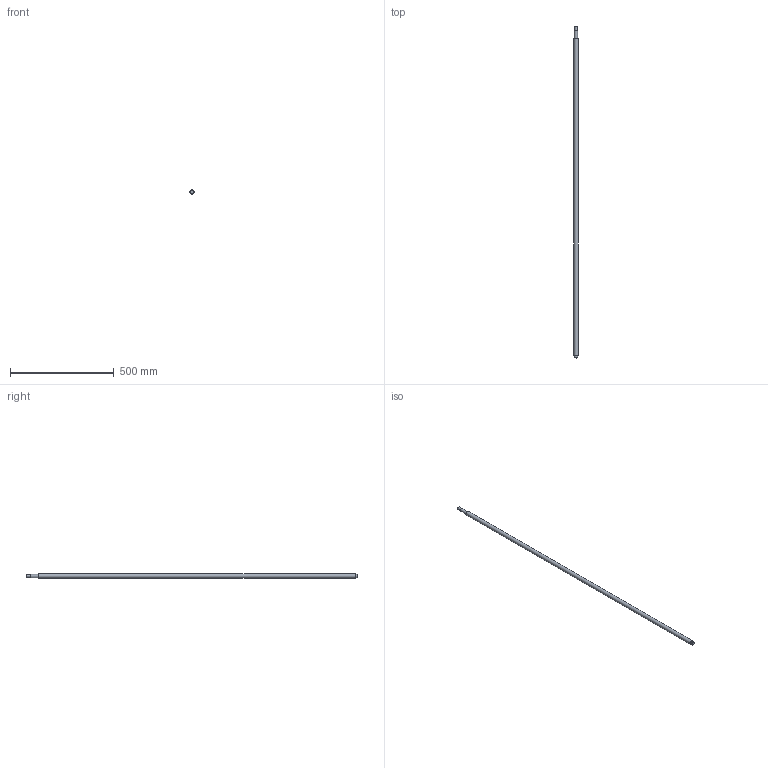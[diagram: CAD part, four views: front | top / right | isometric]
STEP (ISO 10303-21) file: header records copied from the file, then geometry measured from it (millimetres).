
FILE_DESCRIPTION(/* description */ (''),/* implementation_level */ '2;1');
FILE_NAME(/* name */ 'C:\Users\David\Desktop\stepFiles\Profilfuehrung\KUS2010x1600.stp',/* time_stamp */ '2018-06-24T15:12:51+02:00',/* author */ ('David'),/* organization */ (''),/* preprocessor_version */ 'ST-DEVELOPER v17',/* originating_system */ 'Autodesk Inventor 2019',/* authorisation */ '');
FILE_SCHEMA (('AUTOMOTIVE_DESIGN { 1 0 10303 214 3 1 1 }'));
Length unit declared in the file: millimetre
Products named in the file (1): SFU2005xvaiabel
Bounding box: 20 x 1600 x 20 mm (x, y, z)
Volume: 491320.2 mm3; surface area: 99828.3 mm2
Topology: 1 solids, 1 shells, 15 faces, 34 edges, 26 vertices
Faces by surface type: plane 7, cylinder 6, cone 2
Full cylindrical faces by diameter (mm): 12 x1, 14.3 x1, 15 x3, 20 x1
Entity records: 493 total; most frequent: DIRECTION 92, CARTESIAN_POINT 76, ORIENTED_EDGE 68, AXIS2_PLACEMENT_3D 42, EDGE_CURVE 34, CIRCLE 26, VERTEX_POINT 26, EDGE_LOOP 20
